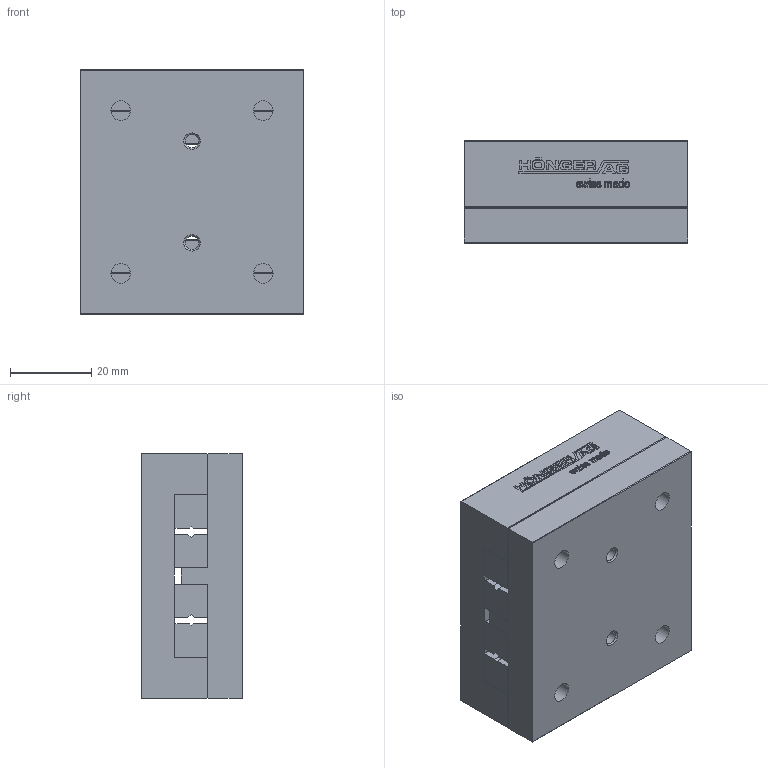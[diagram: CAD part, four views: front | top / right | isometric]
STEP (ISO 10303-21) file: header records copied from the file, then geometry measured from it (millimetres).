
FILE_DESCRIPTION(/* description */ ('STEP AP214'),/* implementation_level */ '2;1');
FILE_NAME(/* name */ 'NKL 3-55(0)',/* time_stamp */ '2025-04-23T07:59:27+02:00',/* author */ ('License CC BY-ND 4.0'),/* organization */ ('CADENAS'),/* preprocessor_version */ 'ST-DEVELOPER v19.3',/* originating_system */ 'PARTsolutions',/* authorisation */ ' ');
FILE_SCHEMA (('AUTOMOTIVE_DESIGN {1 0 10303 214 3 1 1}'));
Length unit declared in the file: millimetre
Products named in the file (3): NKL 3-55(0); NKL 3-55_1; NKL 3-55_2
Assembly tree (2 placements, depth 2):
  NKL 3-55(0)
    NKL 3-55_1
    NKL 3-55_2
Bounding box: 55 x 25 x 60 mm (x, y, z)
Volume: 78851.1 mm3; surface area: 25145.2 mm2
Topology: 2 solids, 2 shells, 595 faces, 1652 edges, 1092 vertices
Faces by surface type: cylinder 304, plane 283, cone 8
Full cylindrical faces by diameter (mm): 3.242 x4, 4.8 x4, 8 x4
Entity records: 19189 total; most frequent: DIRECTION 3444, CARTESIAN_POINT 3318, ORIENTED_EDGE 3260, EDGE_CURVE 1630, AXIS2_PLACEMENT_3D 1216, VERTEX_POINT 1090, LINE 1012, VECTOR 1012
